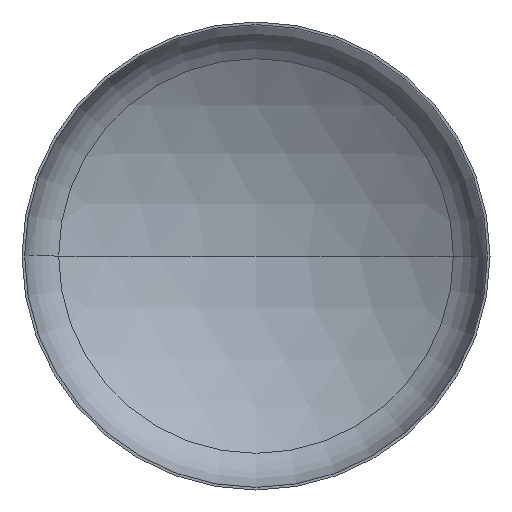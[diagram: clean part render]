
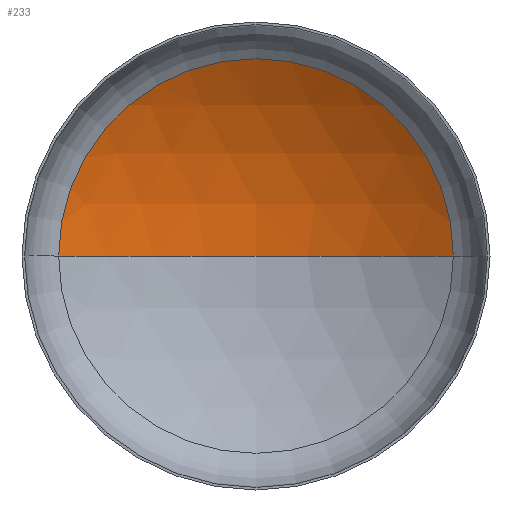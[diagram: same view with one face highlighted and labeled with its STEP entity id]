
A CAD part, front view. The second image highlights one B-rep face of the part: STEP entity #233.
In plain terms, the highlighted spherical face has radius 3040 mm.
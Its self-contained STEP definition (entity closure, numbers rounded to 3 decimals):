
#5 = VERTEX_POINT ( 'NONE', #251 ) ;
#9 = EDGE_LOOP ( 'NONE', ( #70, #91, #62 ) ) ;
#10 = DIRECTION ( 'NONE',  ( -1., 0., 0. ) ) ;
#21 = VERTEX_POINT ( 'NONE', #242 ) ;
#59 = AXIS2_PLACEMENT_3D ( 'NONE', #189, #368, #10 ) ;
#61 = DIRECTION ( 'NONE',  ( 1., 0., 0. ) ) ;
#62 = ORIENTED_EDGE ( 'NONE', *, *, #224, .T. ) ;
#70 = ORIENTED_EDGE ( 'NONE', *, *, #183, .F. ) ;
#91 = ORIENTED_EDGE ( 'NONE', *, *, #204, .T. ) ;
#124 = DIRECTION ( 'NONE',  ( 0., 0., -1. ) ) ;
#131 = CIRCLE ( 'NONE', #59, 3040. ) ;
#135 = AXIS2_PLACEMENT_3D ( 'NONE', #264, #408, #61 ) ;
#179 = CARTESIAN_POINT ( 'NONE',  ( -1602.346, 567.139, 0. ) ) ;
#183 = EDGE_CURVE ( 'NONE', #5, #232, #203, .T. ) ;
#189 = CARTESIAN_POINT ( 'NONE',  ( 0., -2016.286, 0. ) ) ;
#192 = DIRECTION ( 'NONE',  ( 1., 0., 0. ) ) ;
#194 = DIRECTION ( 'NONE',  ( 0., 0., 1. ) ) ;
#195 = CARTESIAN_POINT ( 'NONE',  ( 0., -2016.286, 0. ) ) ;
#196 = CIRCLE ( 'NONE', #135, 1602.346 ) ;
#198 = AXIS2_PLACEMENT_3D ( 'NONE', #195, #124, #200 ) ;
#200 = DIRECTION ( 'NONE',  ( -1., 0., 0. ) ) ;
#203 = CIRCLE ( 'NONE', #371, 3040. ) ;
#204 = EDGE_CURVE ( 'NONE', #5, #21, #131, .T. ) ;
#207 = CARTESIAN_POINT ( 'NONE',  ( 0., -2016.286, 0. ) ) ;
#224 = EDGE_CURVE ( 'NONE', #21, #232, #196, .T. ) ;
#232 = VERTEX_POINT ( 'NONE', #179 ) ;
#233 = ADVANCED_FACE ( 'NONE', ( #385 ), #326, .F. ) ;
#242 = CARTESIAN_POINT ( 'NONE',  ( 1602.346, 567.139, 0. ) ) ;
#251 = CARTESIAN_POINT ( 'NONE',  ( 0., 1023.714, 0. ) ) ;
#264 = CARTESIAN_POINT ( 'NONE',  ( 0., 567.139, 0. ) ) ;
#326 = SPHERICAL_SURFACE ( 'NONE', #198, 3040. ) ;
#368 = DIRECTION ( 'NONE',  ( 0., 0., -1. ) ) ;
#371 = AXIS2_PLACEMENT_3D ( 'NONE', #207, #194, #192 ) ;
#385 = FACE_OUTER_BOUND ( 'NONE', #9, .T. ) ;
#408 = DIRECTION ( 'NONE',  ( 0., -1., 0. ) ) ;
